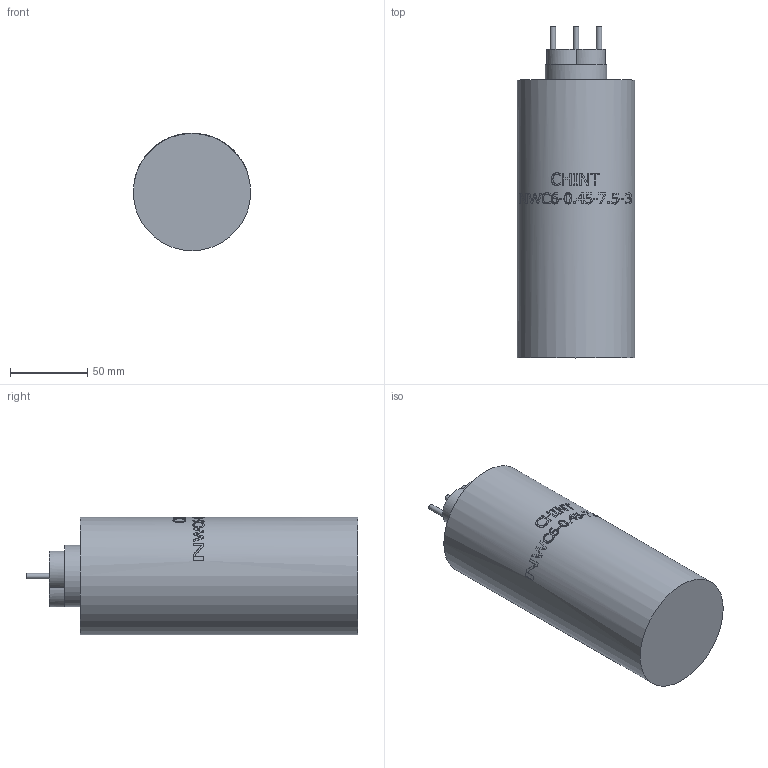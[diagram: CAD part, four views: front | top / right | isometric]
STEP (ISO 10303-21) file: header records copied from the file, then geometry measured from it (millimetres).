
FILE_DESCRIPTION(/* description */ (''),/* implementation_level */ '2;1');
FILE_NAME(/* name */ 'D:\CHINT3\\X2\041A043E043D04340435043D044104300442043E0440044B\X0\\NWC6-0.45-7.5-3.stp',/* time_stamp */ '2017-12-13T20:55:48+03:00',/* author */ ('RSagdiev'),/* organization */ (''),/* preprocessor_version */ 'ST-DEVELOPER v16.5',/* originating_system */ 'Autodesk Inventor 2017',/* authorisation */ '');
FILE_SCHEMA (('AUTOMOTIVE_DESIGN { 1 0 10303 214 3 1 1 }'));
Length unit declared in the file: millimetre
Products named in the file (1): NWC6-0.45-7.5-3
Bounding box: 76 x 215 x 76.1 mm (x, y, z)
Volume: 836830 mm3; surface area: 57996.6 mm2
Topology: 5 solids, 5 shells, 292 faces, 771 edges, 513 vertices
Faces by surface type: plane 152, bspline 108, cylinder 32
Full cylindrical faces by diameter (mm): 3.5 x3, 40 x1, 74 x1, 76 x1
Entity records: 10794 total; most frequent: CARTESIAN_POINT 4078, ORIENTED_EDGE 1528, DIRECTION 1099, EDGE_CURVE 764, VERTEX_POINT 512, LINE 367, VECTOR 367, AXIS2_PLACEMENT_3D 366
